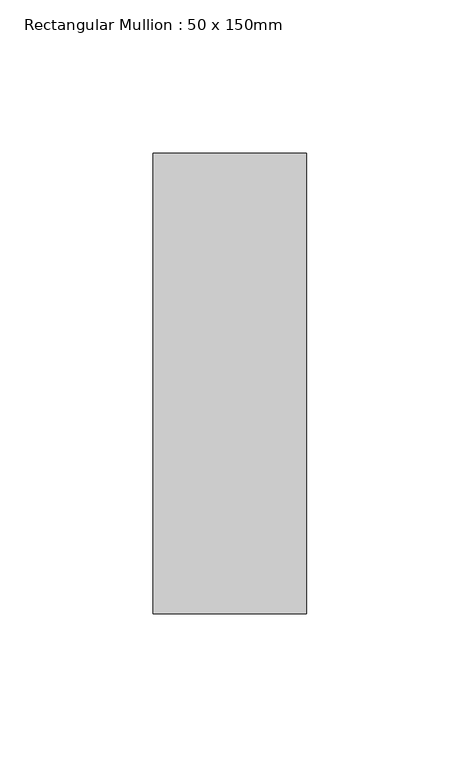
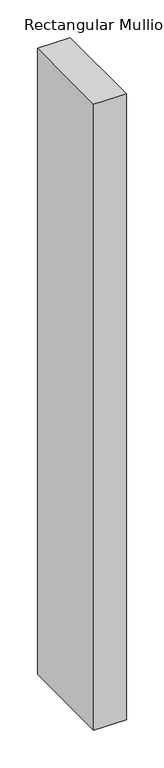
"""IFC4 building model written with IfcOpenShell, lengths in millimetres: member geometry, Rectangular Mullion : 50 x 150mm."""

from ifc_helpers import new_model, si_unit, frame, origin, place, context, project, spatial, polyline, outline, extrude, source, transform, mapped, element, save


def rectangular_mullion_50_x_150mm_3d733e68(model_context):
    return source(origin(), model_context, "Body", "SweptSolid", [
        extrude(outline(polyline([(0.0, 75.0), (0.0, -75.0), (-50.0, -75.0), (-50.0, 75.0), (0.0, 75.0)])), frame((0.0, 0.0, -1016.6666665), z_axis=(0.0, 0.0, 1.0), x_axis=(1.0, 0.0, 0.0)), (0.0, 0.0, 1.0), 1016.6666665),
    ])


if __name__ == "__main__":
    model = new_model("IFC4")
    model_context = context("Model", 3, world=origin())
    ifc_project = project(units=[si_unit("LENGTHUNIT", "METRE", prefix="MILLI")], contexts=[model_context])
    site = spatial("IfcSite", under=ifc_project)
    building = spatial("IfcBuilding", under=site)
    placement = place(None, origin())
    rectangular_mullion_50_x_150mm_shape = rectangular_mullion_50_x_150mm_3d733e68(model_context)
    element("IfcMember", 1, ObjectType="Rectangular Mullion : 50 x 150mm", at=placement, inside=building, context=model_context, shape_type="MappedRepresentation", body=[
        mapped(rectangular_mullion_50_x_150mm_shape, transform((0.0, 0.0, 0.0), x_axis=(1.0, 0.0, 0.0), y_axis=(0.0, 1.0, 0.0), z_axis=(0.0, 0.0, 1.0))),
    ])
    save(model, "model.ifc")
